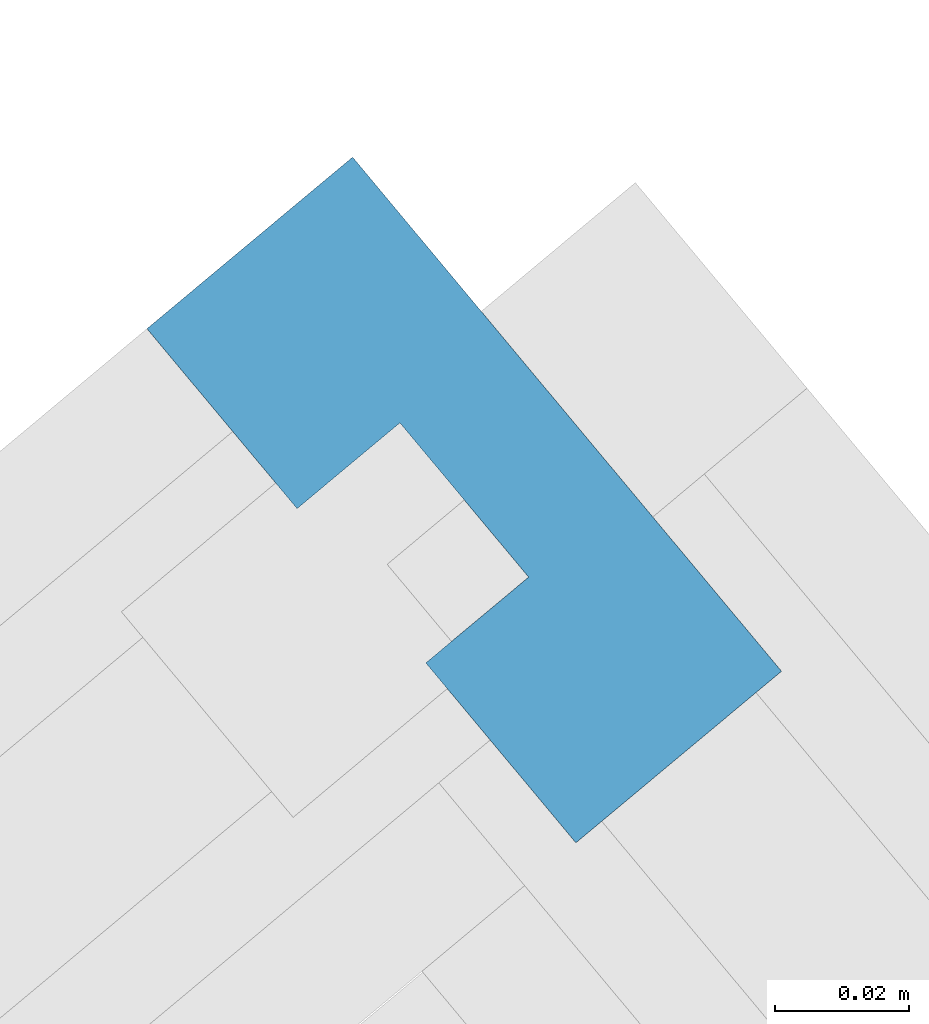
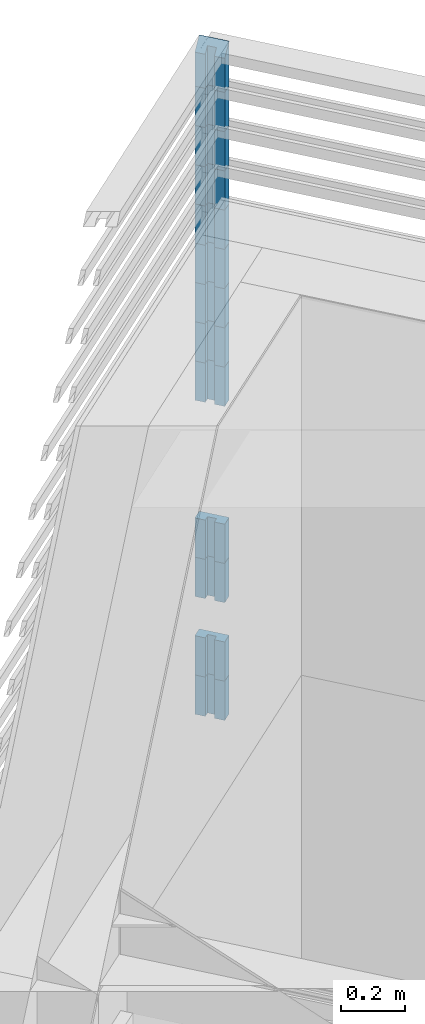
# One storey, part 47 of 50: 13 building element parts, 1 element without a shape of its own.
"""IFC4 building model written with IfcOpenShell, lengths in metres."""

from ifc_helpers import new_model, entity, si_unit, converted_unit, derived_unit, direction, frame, origin_with_axes, place, context, subcontext, project, spatial, polygons, material, type_object, element, aggregate, save


model = new_model("IFC4")

# Units and contexts
model_context = context("Model", 3, precision=1e-05, world=origin_with_axes(), true_north=direction((0.0, 1.0)))
body_context = subcontext(model_context, "Body", "Model", "MODEL_VIEW")
ifc_project = project(units=[si_unit("LENGTHUNIT", "METRE"), si_unit("AREAUNIT", "SQUARE_METRE"), si_unit("VOLUMEUNIT", "CUBIC_METRE"), converted_unit("PLANEANGLEUNIT", "DEGREE", entity("IfcPlaneAngleMeasure", 0.0174532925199), si_unit("PLANEANGLEUNIT", "RADIAN"), dimensions=[0, 0, 0, 0, 0, 0, 0]), converted_unit("TIMEUNIT", "Year", entity("IfcTimeMeasure", 31556926.0), si_unit("TIMEUNIT", "SECOND"), dimensions=[0, 0, 1, 0, 0, 0, 0]), si_unit("MASSUNIT", "GRAM", prefix="KILO"), si_unit("THERMODYNAMICTEMPERATUREUNIT", "DEGREE_CELSIUS"), si_unit("LUMINOUSINTENSITYUNIT", "LUMEN"), si_unit("ENERGYUNIT", "JOULE", prefix="MEGA"), derived_unit("THERMALCONDUCTANCEUNIT", [(si_unit("POWERUNIT", "WATT"), 1), (si_unit("LENGTHUNIT", "METRE"), -1), (si_unit("THERMODYNAMICTEMPERATUREUNIT", "KELVIN"), -1)]), derived_unit("SPECIFICHEATCAPACITYUNIT", [(si_unit("ENERGYUNIT", "JOULE"), 1), (si_unit("MASSUNIT", "GRAM", prefix="KILO"), -1), (si_unit("THERMODYNAMICTEMPERATUREUNIT", "KELVIN"), -1)]), derived_unit("MASSDENSITYUNIT", [(si_unit("MASSUNIT", "GRAM", prefix="KILO"), 1), (si_unit("VOLUMEUNIT", "CUBIC_METRE"), -1)])], contexts=[model_context])

# Site, building, storey, space
site_placement = place(None, frame((-0.00153261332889, -0.00661245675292, 0.0), z_axis=(0.0, 0.0, 1.0), x_axis=(1.0, 0.0, 0.0)))
site = spatial("IfcSite", under=ifc_project, at=site_placement, Name="Gelände", CompositionType="ELEMENT")
building_placement = place(site_placement, origin_with_axes())
building = spatial("IfcBuilding", under=site, at=building_placement, Name="Gebäude", CompositionType="ELEMENT")
storey_placement = place(building_placement, frame((0.0, 0.0, 8.66), z_axis=(0.0, 0.0, 1.0), x_axis=(1.0, 0.0, 0.0)))
storey = spatial("IfcBuildingStorey", under=building, at=storey_placement, Name="DG2", CompositionType="ELEMENT", Elevation=8.66)
space_placement = place(storey_placement, frame((-4.06558748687, 22.1637970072, 0.22), z_axis=(0.0, 0.0, 1.0), x_axis=(-0.767365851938, -0.641209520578, 0.0)))
space = spatial("IfcSpace", under=storey, at=space_placement, CompositionType="ELEMENT", PredefinedType="NOTDEFINED")

# Curtain wall, building element parts
curtain_wall_type = type_object("IfcCurtainWallType", Name="Fassadentyp", PredefinedType="NOTDEFINED")
curtain_wall_placement = place(space_placement, frame((-1.95298492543, -0.601365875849, 0.1), z_axis=(0.0, 0.0, 1.0), x_axis=(-0.767365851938, 0.641209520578, 0.0)))
curtain_wall = element("IfcCurtainWall", 1, at=curtain_wall_placement, inside=space, type_object=curtain_wall_type, Name="Fassade-001", PredefinedType="NOTDEFINED")
ifc_material = material(Name="Blech")
building_element_part_1_placement = place(curtain_wall_placement, origin_with_axes())
building_element_part_1 = element("IfcBuildingElementPart", 2, at=building_element_part_1_placement, material=ifc_material, Name="Blech", PredefinedType="NOTDEFINED", context=body_context, shape_type="Tessellation", body=[
    polygons([(4.62335524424, 3.83828163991, 2.55), (4.60799902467, 3.8254681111, 2.55), (4.63042270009, 3.79859472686, 2.55), (4.66113513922, 3.82422178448, 2.55), (4.59706749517, 3.90100288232, 2.55), (4.56635505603, 3.8753758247, 2.55), (4.58877873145, 3.84850244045, 2.55), (4.60413495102, 3.86131596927, 2.55), (4.62335524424, 3.83828163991, 2.4), (4.60799902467, 3.8254681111, 2.4), (4.63042270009, 3.79859472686, 2.4), (4.66113513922, 3.82422178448, 2.4), (4.59706749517, 3.90100288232, 2.4), (4.56635505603, 3.8753758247, 2.4), (4.58877873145, 3.84850244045, 2.4), (4.60413495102, 3.86131596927, 2.4)], [[[1, 2, 3, 4, 5, 6, 7, 8]], [[1, 9, 10, 2]], [[10, 11, 3, 2]], [[11, 12, 4, 3]], [[12, 13, 5, 4]], [[13, 14, 6, 5]], [[7, 6, 14, 15]], [[15, 16, 8, 7]], [[8, 16, 9, 1]], [[9, 16, 15, 14, 13, 12, 11, 10]]], closed=True),
])
building_element_part_2_placement = place(curtain_wall_placement, origin_with_axes())
building_element_part_2 = element("IfcBuildingElementPart", 3, at=building_element_part_2_placement, material=ifc_material, Name="Blech", PredefinedType="NOTDEFINED", context=body_context, shape_type="Tessellation", body=[
    polygons([(4.62335524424, 3.83828163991, 1.95), (4.60799902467, 3.8254681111, 1.95), (4.63042270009, 3.79859472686, 1.95), (4.66113513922, 3.82422178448, 1.95), (4.59706749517, 3.90100288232, 1.95), (4.56635505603, 3.8753758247, 1.95), (4.58877873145, 3.84850244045, 1.95), (4.60413495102, 3.86131596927, 1.95), (4.62335524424, 3.83828163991, 1.8), (4.60799902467, 3.8254681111, 1.8), (4.63042270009, 3.79859472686, 1.8), (4.66113513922, 3.82422178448, 1.8), (4.59706749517, 3.90100288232, 1.8), (4.56635505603, 3.8753758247, 1.8), (4.58877873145, 3.84850244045, 1.8), (4.60413495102, 3.86131596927, 1.8)], [[[1, 2, 3, 4, 5, 6, 7, 8]], [[1, 9, 10, 2]], [[10, 11, 3, 2]], [[11, 12, 4, 3]], [[12, 13, 5, 4]], [[13, 14, 6, 5]], [[7, 6, 14, 15]], [[15, 16, 8, 7]], [[8, 16, 9, 1]], [[9, 16, 15, 14, 13, 12, 11, 10]]], closed=True),
])
building_element_part_3_placement = place(curtain_wall_placement, origin_with_axes())
building_element_part_3 = element("IfcBuildingElementPart", 4, at=building_element_part_3_placement, material=ifc_material, Name="Blech", PredefinedType="NOTDEFINED", context=body_context, shape_type="Tessellation", body=[
    polygons([(4.62335524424, 3.83828163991, 2.4), (4.60799902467, 3.8254681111, 2.4), (4.63042270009, 3.79859472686, 2.4), (4.66113513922, 3.82422178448, 2.4), (4.59706749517, 3.90100288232, 2.4), (4.56635505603, 3.8753758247, 2.4), (4.58877873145, 3.84850244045, 2.4), (4.60413495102, 3.86131596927, 2.4), (4.62335524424, 3.83828163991, 2.25), (4.60799902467, 3.8254681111, 2.25), (4.63042270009, 3.79859472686, 2.25), (4.66113513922, 3.82422178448, 2.25), (4.59706749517, 3.90100288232, 2.25), (4.56635505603, 3.8753758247, 2.25), (4.58877873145, 3.84850244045, 2.25), (4.60413495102, 3.86131596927, 2.25)], [[[1, 2, 3, 4, 5, 6, 7, 8]], [[1, 9, 10, 2]], [[10, 11, 3, 2]], [[11, 12, 4, 3]], [[12, 13, 5, 4]], [[13, 14, 6, 5]], [[7, 6, 14, 15]], [[15, 16, 8, 7]], [[8, 16, 9, 1]], [[9, 16, 15, 14, 13, 12, 11, 10]]], closed=True),
])
building_element_part_4_placement = place(curtain_wall_placement, origin_with_axes())
building_element_part_4 = element("IfcBuildingElementPart", 5, at=building_element_part_4_placement, material=ifc_material, Name="Blech", PredefinedType="NOTDEFINED", context=body_context, shape_type="Tessellation", body=[
    polygons([(4.62335524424, 3.83828163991, 2.1), (4.60799902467, 3.8254681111, 2.1), (4.63042270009, 3.79859472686, 2.1), (4.66113513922, 3.82422178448, 2.1), (4.59706749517, 3.90100288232, 2.1), (4.56635505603, 3.8753758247, 2.1), (4.58877873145, 3.84850244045, 2.1), (4.60413495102, 3.86131596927, 2.1), (4.62335524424, 3.83828163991, 1.95), (4.60799902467, 3.8254681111, 1.95), (4.63042270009, 3.79859472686, 1.95), (4.66113513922, 3.82422178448, 1.95), (4.59706749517, 3.90100288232, 1.95), (4.56635505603, 3.8753758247, 1.95), (4.58877873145, 3.84850244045, 1.95), (4.60413495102, 3.86131596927, 1.95)], [[[1, 2, 3, 4, 5, 6, 7, 8]], [[1, 9, 10, 2]], [[10, 11, 3, 2]], [[11, 12, 4, 3]], [[12, 13, 5, 4]], [[13, 14, 6, 5]], [[7, 6, 14, 15]], [[15, 16, 8, 7]], [[8, 16, 9, 1]], [[9, 16, 15, 14, 13, 12, 11, 10]]], closed=True),
])
building_element_part_5_placement = place(curtain_wall_placement, origin_with_axes())
building_element_part_5 = element("IfcBuildingElementPart", 6, at=building_element_part_5_placement, material=ifc_material, Name="Blech", PredefinedType="NOTDEFINED", context=body_context, shape_type="Tessellation", body=[
    polygons([(4.62335524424, 3.83828163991, 3.15), (4.60799902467, 3.8254681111, 3.15), (4.63042270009, 3.79859472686, 3.15), (4.66113513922, 3.82422178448, 3.15), (4.59706749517, 3.90100288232, 3.15), (4.56635505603, 3.8753758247, 3.15), (4.58877873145, 3.84850244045, 3.15), (4.60413495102, 3.86131596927, 3.15), (4.62335524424, 3.83828163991, 3.0), (4.60799902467, 3.8254681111, 3.0), (4.63042270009, 3.79859472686, 3.0), (4.66113513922, 3.82422178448, 3.0), (4.59706749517, 3.90100288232, 3.0), (4.56635505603, 3.8753758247, 3.0), (4.58877873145, 3.84850244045, 3.0), (4.60413495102, 3.86131596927, 3.0)], [[[1, 2, 3, 4, 5, 6, 7, 8]], [[1, 9, 10, 2]], [[10, 11, 3, 2]], [[11, 12, 4, 3]], [[12, 13, 5, 4]], [[13, 14, 6, 5]], [[7, 6, 14, 15]], [[15, 16, 8, 7]], [[8, 16, 9, 1]], [[9, 16, 15, 14, 13, 12, 11, 10]]], closed=True),
])
building_element_part_6_placement = place(curtain_wall_placement, origin_with_axes())
building_element_part_6 = element("IfcBuildingElementPart", 7, at=building_element_part_6_placement, material=ifc_material, Name="Blech", PredefinedType="NOTDEFINED", context=body_context, shape_type="Tessellation", body=[
    polygons([(4.62335524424, 3.83828163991, 3.3), (4.60799902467, 3.8254681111, 3.3), (4.63042270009, 3.79859472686, 3.3), (4.66113513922, 3.82422178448, 3.3), (4.59706749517, 3.90100288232, 3.3), (4.56635505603, 3.8753758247, 3.3), (4.58877873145, 3.84850244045, 3.3), (4.60413495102, 3.86131596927, 3.3), (4.62335524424, 3.83828163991, 3.15), (4.60799902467, 3.8254681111, 3.15), (4.63042270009, 3.79859472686, 3.15), (4.66113513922, 3.82422178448, 3.15), (4.59706749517, 3.90100288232, 3.15), (4.56635505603, 3.8753758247, 3.15), (4.58877873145, 3.84850244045, 3.15), (4.60413495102, 3.86131596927, 3.15)], [[[1, 2, 3, 4, 5, 6, 7, 8]], [[1, 9, 10, 2]], [[10, 11, 3, 2]], [[11, 12, 4, 3]], [[12, 13, 5, 4]], [[13, 14, 6, 5]], [[7, 6, 14, 15]], [[15, 16, 8, 7]], [[8, 16, 9, 1]], [[9, 16, 15, 14, 13, 12, 11, 10]]], closed=True),
])
building_element_part_7_placement = place(curtain_wall_placement, origin_with_axes())
building_element_part_7 = element("IfcBuildingElementPart", 8, at=building_element_part_7_placement, material=ifc_material, Name="Blech", PredefinedType="NOTDEFINED", context=body_context, shape_type="Tessellation", body=[
    polygons([(4.62335524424, 3.83828163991, 3.45), (4.60799902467, 3.8254681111, 3.45), (4.63042270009, 3.79859472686, 3.45), (4.66113513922, 3.82422178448, 3.45), (4.59706749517, 3.90100288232, 3.45), (4.56635505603, 3.8753758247, 3.45), (4.58877873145, 3.84850244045, 3.45), (4.60413495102, 3.86131596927, 3.45), (4.62335524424, 3.83828163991, 3.3), (4.60799902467, 3.8254681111, 3.3), (4.63042270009, 3.79859472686, 3.3), (4.66113513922, 3.82422178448, 3.3), (4.59706749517, 3.90100288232, 3.3), (4.56635505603, 3.8753758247, 3.3), (4.58877873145, 3.84850244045, 3.3), (4.60413495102, 3.86131596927, 3.3)], [[[1, 2, 3, 4, 5, 6, 7, 8]], [[1, 9, 10, 2]], [[10, 11, 3, 2]], [[11, 12, 4, 3]], [[12, 13, 5, 4]], [[13, 14, 6, 5]], [[7, 6, 14, 15]], [[15, 16, 8, 7]], [[8, 16, 9, 1]], [[9, 16, 15, 14, 13, 12, 11, 10]]], closed=True),
])
building_element_part_8_placement = place(curtain_wall_placement, origin_with_axes())
building_element_part_8 = element("IfcBuildingElementPart", 9, at=building_element_part_8_placement, material=ifc_material, Name="Blech", PredefinedType="NOTDEFINED", context=body_context, shape_type="Tessellation", body=[
    polygons([(4.62335524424, 3.83828163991, 3.6), (4.60799902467, 3.8254681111, 3.6), (4.63042270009, 3.79859472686, 3.6), (4.66113513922, 3.82422178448, 3.6), (4.59706749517, 3.90100288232, 3.6), (4.56635505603, 3.8753758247, 3.6), (4.58877873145, 3.84850244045, 3.6), (4.60413495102, 3.86131596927, 3.6), (4.62335524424, 3.83828163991, 3.45), (4.60799902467, 3.8254681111, 3.45), (4.63042270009, 3.79859472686, 3.45), (4.66113513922, 3.82422178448, 3.45), (4.59706749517, 3.90100288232, 3.45), (4.56635505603, 3.8753758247, 3.45), (4.58877873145, 3.84850244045, 3.45), (4.60413495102, 3.86131596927, 3.45)], [[[1, 2, 3, 4, 5, 6, 7, 8]], [[1, 9, 10, 2]], [[10, 11, 3, 2]], [[11, 12, 4, 3]], [[12, 13, 5, 4]], [[13, 14, 6, 5]], [[7, 6, 14, 15]], [[15, 16, 8, 7]], [[8, 16, 9, 1]], [[9, 16, 15, 14, 13, 12, 11, 10]]], closed=True),
])
building_element_part_9_placement = place(curtain_wall_placement, origin_with_axes())
building_element_part_9 = element("IfcBuildingElementPart", 10, at=building_element_part_9_placement, material=ifc_material, Name="Blech", PredefinedType="NOTDEFINED", context=body_context, shape_type="Tessellation", body=[
    polygons([(4.62335524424, 3.83828163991, 3.75), (4.60799902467, 3.8254681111, 3.75), (4.63042270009, 3.79859472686, 3.75), (4.66113513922, 3.82422178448, 3.75), (4.59706749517, 3.90100288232, 3.75), (4.56635505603, 3.8753758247, 3.75), (4.58877873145, 3.84850244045, 3.75), (4.60413495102, 3.86131596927, 3.75), (4.62335524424, 3.83828163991, 3.6), (4.60799902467, 3.8254681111, 3.6), (4.63042270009, 3.79859472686, 3.6), (4.66113513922, 3.82422178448, 3.6), (4.59706749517, 3.90100288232, 3.6), (4.56635505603, 3.8753758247, 3.6), (4.58877873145, 3.84850244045, 3.6), (4.60413495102, 3.86131596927, 3.6)], [[[1, 2, 3, 4, 5, 6, 7, 8]], [[1, 9, 10, 2]], [[10, 11, 3, 2]], [[11, 12, 4, 3]], [[12, 13, 5, 4]], [[13, 14, 6, 5]], [[7, 6, 14, 15]], [[15, 16, 8, 7]], [[8, 16, 9, 1]], [[9, 16, 15, 14, 13, 12, 11, 10]]], closed=True),
])
building_element_part_10_placement = place(curtain_wall_placement, origin_with_axes())
building_element_part_10 = element("IfcBuildingElementPart", 11, at=building_element_part_10_placement, material=ifc_material, Name="Blech", PredefinedType="NOTDEFINED", context=body_context, shape_type="Tessellation", body=[
    polygons([(4.62335524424, 3.83828163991, 3.9), (4.60799902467, 3.8254681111, 3.9), (4.63042270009, 3.79859472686, 3.9), (4.66113513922, 3.82422178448, 3.9), (4.59706749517, 3.90100288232, 3.9), (4.56635505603, 3.8753758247, 3.9), (4.58877873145, 3.84850244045, 3.9), (4.60413495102, 3.86131596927, 3.9), (4.62335524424, 3.83828163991, 3.75), (4.60799902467, 3.8254681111, 3.75), (4.63042270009, 3.79859472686, 3.75), (4.66113513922, 3.82422178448, 3.75), (4.59706749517, 3.90100288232, 3.75), (4.56635505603, 3.8753758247, 3.75), (4.58877873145, 3.84850244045, 3.75), (4.60413495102, 3.86131596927, 3.75)], [[[1, 2, 3, 4, 5, 6, 7, 8]], [[1, 9, 10, 2]], [[10, 11, 3, 2]], [[11, 12, 4, 3]], [[12, 13, 5, 4]], [[13, 14, 6, 5]], [[7, 6, 14, 15]], [[15, 16, 8, 7]], [[8, 16, 9, 1]], [[9, 16, 15, 14, 13, 12, 11, 10]]], closed=True),
])
building_element_part_11_placement = place(curtain_wall_placement, origin_with_axes())
building_element_part_11 = element("IfcBuildingElementPart", 12, at=building_element_part_11_placement, material=ifc_material, Name="Blech", PredefinedType="NOTDEFINED", context=body_context, shape_type="Tessellation", body=[
    polygons([(4.62335524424, 3.83828163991, 4.05), (4.60799902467, 3.8254681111, 4.05), (4.63042270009, 3.79859472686, 4.05), (4.66113513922, 3.82422178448, 4.05), (4.59706749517, 3.90100288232, 4.05), (4.56635505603, 3.8753758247, 4.05), (4.58877873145, 3.84850244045, 4.05), (4.60413495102, 3.86131596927, 4.05), (4.62335524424, 3.83828163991, 3.9), (4.60799902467, 3.8254681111, 3.9), (4.63042270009, 3.79859472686, 3.9), (4.66113513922, 3.82422178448, 3.9), (4.59706749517, 3.90100288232, 3.9), (4.56635505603, 3.8753758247, 3.9), (4.58877873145, 3.84850244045, 3.9), (4.60413495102, 3.86131596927, 3.9)], [[[1, 2, 3, 4, 5, 6, 7, 8]], [[1, 9, 10, 2]], [[10, 11, 3, 2]], [[11, 12, 4, 3]], [[12, 13, 5, 4]], [[13, 14, 6, 5]], [[7, 6, 14, 15]], [[15, 16, 8, 7]], [[8, 16, 9, 1]], [[9, 16, 15, 14, 13, 12, 11, 10]]], closed=True),
])
building_element_part_12_placement = place(curtain_wall_placement, origin_with_axes())
building_element_part_12 = element("IfcBuildingElementPart", 13, at=building_element_part_12_placement, material=ifc_material, Name="Blech", PredefinedType="NOTDEFINED", context=body_context, shape_type="Tessellation", body=[
    polygons([(4.62335524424, 3.83828163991, 4.2), (4.60799902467, 3.8254681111, 4.2), (4.63042270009, 3.79859472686, 4.2), (4.66113513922, 3.82422178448, 4.2), (4.59706749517, 3.90100288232, 4.2), (4.56635505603, 3.8753758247, 4.2), (4.58877873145, 3.84850244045, 4.2), (4.60413495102, 3.86131596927, 4.2), (4.62335524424, 3.83828163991, 4.05), (4.60799902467, 3.8254681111, 4.05), (4.63042270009, 3.79859472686, 4.05), (4.66113513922, 3.82422178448, 4.05), (4.59706749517, 3.90100288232, 4.05), (4.56635505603, 3.8753758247, 4.05), (4.58877873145, 3.84850244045, 4.05), (4.60413495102, 3.86131596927, 4.05)], [[[1, 2, 3, 4, 5, 6, 7, 8]], [[1, 9, 10, 2]], [[10, 11, 3, 2]], [[11, 12, 4, 3]], [[12, 13, 5, 4]], [[13, 14, 6, 5]], [[7, 6, 14, 15]], [[15, 16, 8, 7]], [[8, 16, 9, 1]], [[9, 16, 15, 14, 13, 12, 11, 10]]], closed=True),
])
building_element_part_13_placement = place(curtain_wall_placement, origin_with_axes())
building_element_part_13 = element("IfcBuildingElementPart", 14, at=building_element_part_13_placement, material=ifc_material, Name="Blech", PredefinedType="NOTDEFINED", context=body_context, shape_type="Tessellation", body=[
    polygons([(4.62335524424, 3.83828163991, 4.35), (4.60799902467, 3.8254681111, 4.33), (4.63042270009, 3.79859472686, 4.33), (4.66113513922, 3.82422178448, 4.37), (4.59706749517, 3.90100288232, 4.37), (4.56635505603, 3.8753758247, 4.33), (4.58877873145, 3.84850244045, 4.33), (4.60413495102, 3.86131596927, 4.35), (4.62335524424, 3.83828163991, 4.2), (4.60799902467, 3.8254681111, 4.2), (4.63042270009, 3.79859472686, 4.2), (4.66113513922, 3.82422178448, 4.2), (4.59706749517, 3.90100288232, 4.2), (4.56635505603, 3.8753758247, 4.2), (4.58877873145, 3.84850244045, 4.2), (4.60413495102, 3.86131596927, 4.2)], [[[1, 2, 3, 4, 5, 6, 7, 8]], [[1, 9, 10, 2]], [[10, 11, 3, 2]], [[11, 12, 4, 3]], [[12, 13, 5, 4]], [[13, 14, 6, 5]], [[7, 6, 14, 15]], [[15, 16, 8, 7]], [[8, 16, 9, 1]], [[9, 16, 15, 14, 13, 12, 11, 10]]], closed=True),
])
aggregate(curtain_wall, [building_element_part_1, building_element_part_2, building_element_part_3, building_element_part_4, building_element_part_5, building_element_part_6, building_element_part_7, building_element_part_8, building_element_part_9, building_element_part_10, building_element_part_11, building_element_part_12, building_element_part_13])

save(model, "model.ifc")
